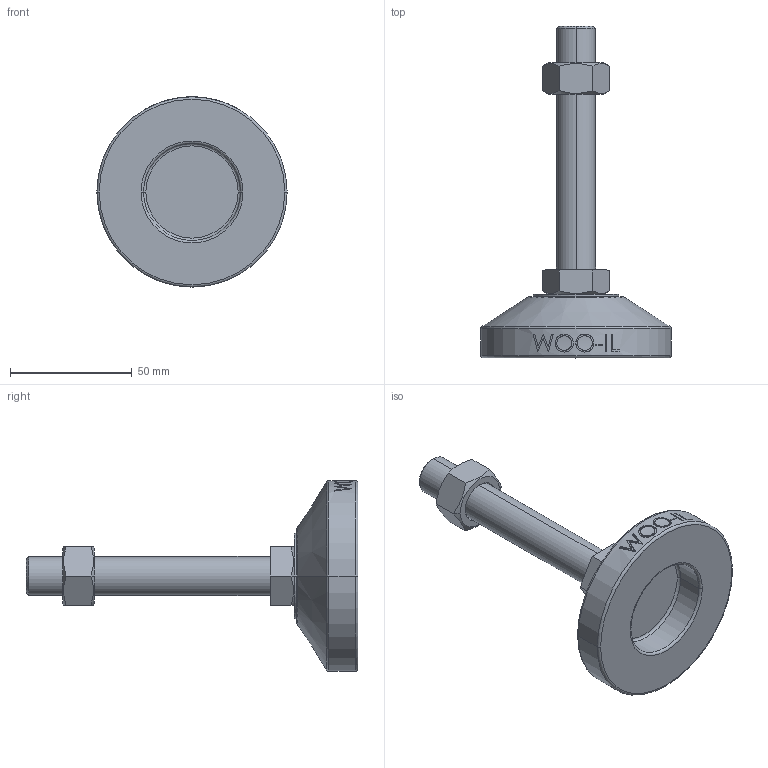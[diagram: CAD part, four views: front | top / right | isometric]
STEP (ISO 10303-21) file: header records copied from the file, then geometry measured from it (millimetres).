
FILE_DESCRIPTION (( 'STEP AP214' ), '1' );
FILE_NAME ('MF78-M16-100.step', '2021-02-03T08:20:27', ( '' ), ( '' ), 'SwSTEP 2.0', 'SolidWorks 2019', '' );
FILE_SCHEMA (( 'AUTOMOTIVE_DESIGN' ));
Length unit declared in the file: millimetre
Products named in the file (2): MF78-M16-100
Bounding box: 78 x 136 x 78 mm (x, y, z)
Volume: 108711.3 mm3; surface area: 23748.1 mm2
Topology: 3 solids, 3 shells, 106 faces, 243 edges, 154 vertices
Faces by surface type: plane 48, cylinder 18, bspline 16, cone 14, torus 10
Entity records: 4520 total; most frequent: CARTESIAN_POINT 2177, ORIENTED_EDGE 486, DIRECTION 439, EDGE_CURVE 243, AXIS2_PLACEMENT_3D 170, VERTEX_POINT 154, EDGE_LOOP 119, FACE_OUTER_BOUND 106
